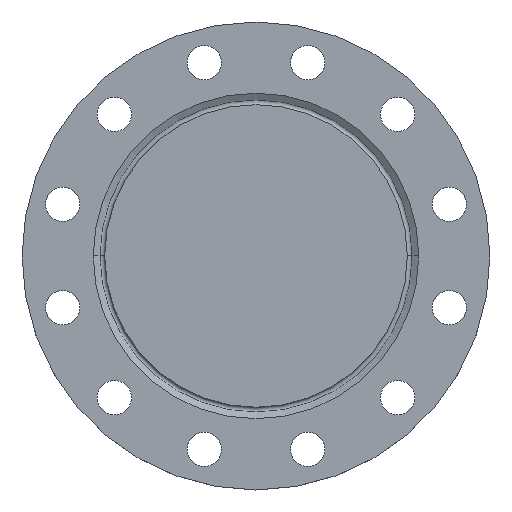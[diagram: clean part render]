
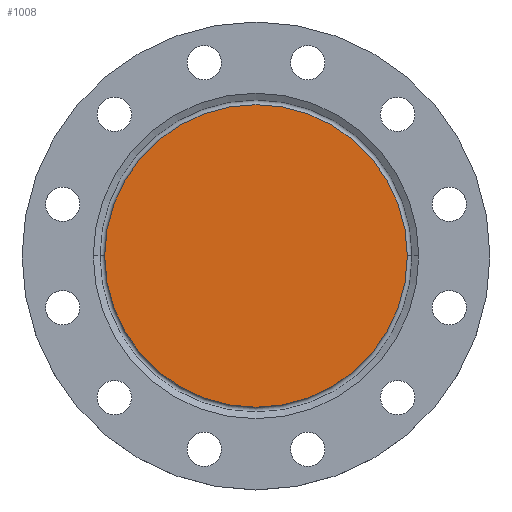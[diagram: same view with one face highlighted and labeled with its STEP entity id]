
A CAD part, top view. The second image highlights one B-rep face of the part: STEP entity #1008.
In plain terms, the highlighted planar face has unit normal (0, 0, 1).
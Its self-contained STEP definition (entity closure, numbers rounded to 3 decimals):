
#8 = CIRCLE ( 'NONE', #892, 145.5 ) ;
#198 = EDGE_CURVE ( 'NONE', #1049, #863, #8, .T. ) ;
#216 = CARTESIAN_POINT ( 'NONE',  ( 145.5, 0., 0. ) ) ;
#252 = DIRECTION ( 'NONE',  ( 1., 0., 0. ) ) ;
#254 = DIRECTION ( 'NONE',  ( 0., 0., 1. ) ) ;
#255 = CARTESIAN_POINT ( 'NONE',  ( 0., 0., 0. ) ) ;
#259 = PLANE ( 'NONE',  #456 ) ;
#375 = CARTESIAN_POINT ( 'NONE',  ( -145.5, 0., 0. ) ) ;
#456 = AXIS2_PLACEMENT_3D ( 'NONE', #255, #254, #252 ) ;
#491 = FACE_OUTER_BOUND ( 'NONE', #1054, .T. ) ;
#535 = DIRECTION ( 'NONE',  ( -1., 0., 0. ) ) ;
#536 = DIRECTION ( 'NONE',  ( 0., 0., -1. ) ) ;
#537 = CARTESIAN_POINT ( 'NONE',  ( 0., 0., 0. ) ) ;
#547 = EDGE_CURVE ( 'NONE', #863, #1049, #1110, .T. ) ;
#634 = DIRECTION ( 'NONE',  ( -1., 0., 0. ) ) ;
#635 = DIRECTION ( 'NONE',  ( 0., 0., -1. ) ) ;
#636 = CARTESIAN_POINT ( 'NONE',  ( 0., 0., 0. ) ) ;
#796 = ORIENTED_EDGE ( 'NONE', *, *, #547, .F. ) ;
#798 = ORIENTED_EDGE ( 'NONE', *, *, #198, .F. ) ;
#863 = VERTEX_POINT ( 'NONE', #375 ) ;
#892 = AXIS2_PLACEMENT_3D ( 'NONE', #636, #635, #634 ) ;
#1008 = ADVANCED_FACE ( 'NONE', ( #491 ), #259, .T. ) ;
#1049 = VERTEX_POINT ( 'NONE', #216 ) ;
#1054 = EDGE_LOOP ( 'NONE', ( #796, #798 ) ) ;
#1107 = AXIS2_PLACEMENT_3D ( 'NONE', #537, #536, #535 ) ;
#1110 = CIRCLE ( 'NONE', #1107, 145.5 ) ;
